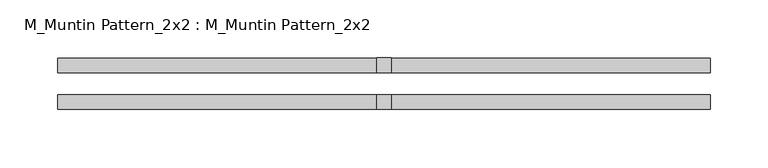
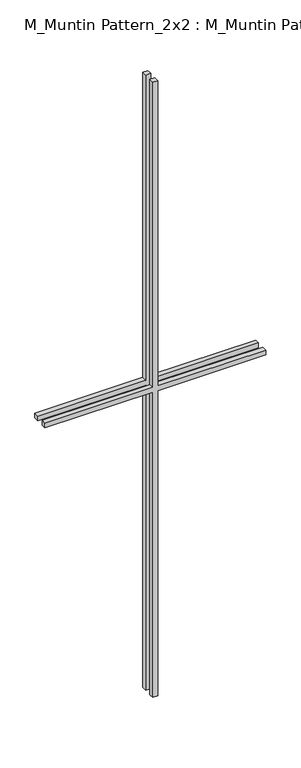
"""IFC4 building model written with IfcOpenShell, lengths in millimetres: proxy geometry, M_Muntin Pattern_2x2 : M_Muntin Pattern_2x2."""

import ifcopenshell
import ifcopenshell.guid

model = None  # the IFC model being written
_history = None  # IfcOwnerHistory: only IFC2X3 demands one
_inside = {}  # id of a spatial element -> (the spatial element, [elements in it])
_under = {}  # id of a project, library or spatial element -> (it, [spatial elements below it])
_declared = {}  # id of a project -> (the project, [libraries it declares])
_typed = {}  # id of a type object -> (the type object, [elements of that type])
_made_of = {}  # id of a material, layer set ... -> (it, [elements and type objects made of it])


def new_model(schema):
    """Start an empty IFC model of exactly this schema.

    Asked for "IFC4X3", IfcOpenShell would pick the latest addendum, in which some entities
    have other attributes; the version numbers below select the first issue.
    IFC2X3 requires an IfcOwnerHistory on every rooted entity: one is made here for all.
    """
    global model, _history
    if schema == "IFC4X3":
        model = ifcopenshell.file(schema_version=(4, 3, 0, 0))
    else:
        model = ifcopenshell.file(schema=schema)
    _inside.clear()
    _under.clear()
    _declared.clear()
    _typed.clear()
    _made_of.clear()
    _history = None
    if model.schema == "IFC2X3":
        org = make("IfcOrganization", Name="unknown")
        user = make(
            "IfcPersonAndOrganization",
            ThePerson=make("IfcPerson", FamilyName="unknown"),
            TheOrganization=org,
        )
        app = make(
            "IfcApplication",
            ApplicationDeveloper=org,
            Version="unknown",
            ApplicationFullName="unknown",
            ApplicationIdentifier="unknown",
        )
        _history = make(
            "IfcOwnerHistory",
            OwningUser=user,
            OwningApplication=app,
            ChangeAction="ADDED",
            CreationDate=0,
        )
    return model


def make(cls, **values):
    """One entity of the class cls with the attributes given. An attribute that is None is left unset."""
    return model.create_entity(
        cls, **{name: value for name, value in values.items() if value is not None}
    )


def rooted(cls, **values):
    """An entity with a GlobalId (a new one), such as an element, a storey or a relation."""
    return make(cls, GlobalId=ifcopenshell.guid.new(), OwnerHistory=_history, **values)


def si_unit(unit_type, name, prefix=None):
    """IfcSIUnit, for example si_unit("LENGTHUNIT", "METRE", prefix="MILLI")."""
    return make("IfcSIUnit", UnitType=unit_type, Prefix=prefix, Name=name)


def assignment(units):
    """IfcUnitAssignment: the units of a project."""
    return None if units is None else make("IfcUnitAssignment", Units=units)


def point(xyz):
    """IfcCartesianPoint."""
    return None if xyz is None else make("IfcCartesianPoint", Coordinates=xyz)


def direction(xyz):
    """IfcDirection."""
    return None if xyz is None else make("IfcDirection", DirectionRatios=xyz)


def frame(location, z_axis=None, x_axis=None):
    """IfcAxis2Placement3D, a coordinate frame: its origin and axes. An axis left out is left unset."""
    return make(
        "IfcAxis2Placement3D",
        Location=point(location),
        Axis=direction(z_axis),
        RefDirection=direction(x_axis),
    )


def origin():
    """The frame at (0, 0, 0) with its axes left unset."""
    return frame((0.0, 0.0, 0.0))


def place(relative_to, where):
    """IfcLocalPlacement: puts the frame where relative to a parent placement (None: the world)."""
    return make(
        "IfcLocalPlacement", PlacementRelTo=relative_to, RelativePlacement=where
    )


def context(
    kind, dimensions, precision=None, world=None, true_north=None, identifier=None
):
    """IfcGeometricRepresentationContext, for example the 3D "Model" context."""
    return make(
        "IfcGeometricRepresentationContext",
        ContextIdentifier=identifier,
        ContextType=kind,
        CoordinateSpaceDimension=dimensions,
        Precision=precision,
        WorldCoordinateSystem=world,
        TrueNorth=true_north,
    )


def project(units=None, contexts=None):
    """IfcProject with its units and contexts."""
    return rooted(
        "IfcProject",
        Name="project",
        RepresentationContexts=contexts,
        UnitsInContext=assignment(units),
    )


def spatial(cls, under=None, at=None, **own):
    """A site, building, storey or space (cls), placed at a placement, below another one or the project."""
    s = rooted(cls, ObjectPlacement=at, **own)
    if under is not None:
        _under.setdefault(under.id(), (under, []))[1].append(s)
    return s


def polyline(points):
    """IfcPolyline through the points."""
    return make("IfcPolyline", Points=[point(p) for p in points])


def outline(outer, holes=None, kind="AREA"):
    """IfcArbitraryClosedProfileDef: a profile drawn as a closed curve; with holes, ...WithVoids."""
    if holes is None:
        return make("IfcArbitraryClosedProfileDef", ProfileType=kind, OuterCurve=outer)
    return make(
        "IfcArbitraryProfileDefWithVoids",
        ProfileType=kind,
        OuterCurve=outer,
        InnerCurves=holes,
    )


def extrude(swept, where, along, depth):
    """IfcExtrudedAreaSolid: the profile swept, set in the frame where, extruded along a direction by depth."""
    return make(
        "IfcExtrudedAreaSolid",
        SweptArea=swept,
        Position=where,
        ExtrudedDirection=direction(along),
        Depth=depth,
    )


def shape(context_of_items, identifier, shape_type, items):
    """IfcShapeRepresentation: the items that make up one representation, for example the "Body"."""
    return make(
        "IfcShapeRepresentation",
        ContextOfItems=context_of_items,
        RepresentationIdentifier=identifier,
        RepresentationType=shape_type,
        Items=items,
    )


def source(mapping_origin, context_of_items, identifier, shape_type, items):
    """IfcRepresentationMap: a shape defined once, which mapped items show again and again."""
    return make(
        "IfcRepresentationMap",
        MappingOrigin=mapping_origin,
        MappedRepresentation=shape(context_of_items, identifier, shape_type, items),
    )


def transform(
    local_origin,
    x_axis=None,
    y_axis=None,
    z_axis=None,
    scale=None,
    scale2=None,
    scale3=None,
    uniform=True,
):
    """IfcCartesianTransformationOperator3D, or its non-uniform kind. x_axis, y_axis, z_axis: its Axis1, 2, 3."""
    if uniform:
        return make(
            "IfcCartesianTransformationOperator3D",
            Axis1=direction(x_axis),
            Axis2=direction(y_axis),
            LocalOrigin=point(local_origin),
            Scale=scale,
            Axis3=direction(z_axis),
        )
    return make(
        "IfcCartesianTransformationOperator3DnonUniform",
        Axis1=direction(x_axis),
        Axis2=direction(y_axis),
        LocalOrigin=point(local_origin),
        Scale=scale,
        Axis3=direction(z_axis),
        Scale2=scale2,
        Scale3=scale3,
    )


def mapped(mapping_source, mapping_target):
    """IfcMappedItem: shows the shape of a source again, moved by a transform."""
    return make(
        "IfcMappedItem", MappingSource=mapping_source, MappingTarget=mapping_target
    )


def made_of(thing, what):
    """Note that an element or type object is made of a material, layer set ...; save() writes the relation."""
    if what is not None:
        _made_of.setdefault(what.id(), (what, []))[1].append(thing)
    return thing


def element(
    cls,
    number,
    at=None,
    inside=None,
    cuts=None,
    type_object=None,
    material=None,
    context=None,
    identifier="Body",
    shape_type=None,
    held_by="IfcProductDefinitionShape",
    body=None,
    shapes=None,
    **own,
):
    """One element of the class cls, such as IfcWall. Its Tag is "e" and its number.

    at: its placement. inside: the storey or other place that contains it. cuts: it is an
    opening in that element (IfcRelVoidsElement). A single representation is given by context,
    identifier, shape_type and body (its items); several are given by shapes. held_by: the class
    of the entity that holds the representations. save() writes the other relations.
    """
    e = rooted(cls, Tag="e%d" % number, ObjectPlacement=at, **own)
    if body is not None:
        shapes = [shape(context, identifier, shape_type, body)]
    if shapes is not None:
        e.Representation = make(held_by, Representations=shapes)
    if inside is not None:
        _inside.setdefault(inside.id(), (inside, []))[1].append(e)
    if cuts is not None:
        rooted(
            "IfcRelVoidsElement", RelatingBuildingElement=cuts, RelatedOpeningElement=e
        )
    if type_object is not None:
        _typed.setdefault(type_object.id(), (type_object, []))[1].append(e)
    return made_of(e, material)


def aggregate(whole, parts):
    """IfcRelAggregates: a whole, such as a stair, and the parts it consists of."""
    return rooted("IfcRelAggregates", RelatingObject=whole, RelatedObjects=parts)


def save(model, path):
    """Write the relations noted so far, then the file.

    IfcRelAggregates (storeys below a building ...), IfcRelContainedInSpatialStructure (elements
    in a storey), IfcRelDefinesByType, IfcRelAssociatesMaterial and IfcRelDeclares: one each for
    every whole, place, type object, material and project.
    """
    for whole, parts in _under.values():
        aggregate(whole, parts)
    for where, things in _inside.values():
        rooted(
            "IfcRelContainedInSpatialStructure",
            RelatedElements=things,
            RelatingStructure=where,
        )
    for kind, things in _typed.values():
        rooted("IfcRelDefinesByType", RelatedObjects=things, RelatingType=kind)
    for what, things in _made_of.values():
        rooted("IfcRelAssociatesMaterial", RelatedObjects=things, RelatingMaterial=what)
    for by, libraries in _declared.values():
        rooted("IfcRelDeclares", RelatingContext=by, RelatedDefinitions=libraries)
    model.write(path)


def m_muntin_pattern_2x2_m_muntin_pattern_2x2_d2d4b859(model_context):
    return source(origin(), model_context, "Body", "SweptSolid", [
        extrude(outline(polyline([(836.5, -6.35), (836.5, -281.7375), (823.8, -281.7375), (823.8, -6.35), (0.0, -6.35), (0.0, 6.35), (823.8, 6.35), (823.8, 281.7375), (836.5, 281.7375), (836.5, 6.35), (1660.3, 6.35), (1660.3, -6.35), (836.5, -6.35)])), frame((0.0, 9.525, 0.0), z_axis=(0.0, 1.0, 0.0), x_axis=(0.0, 0.0, 1.0)), (0.0, 0.0, 1.0), 12.7),
        extrude(outline(polyline([(836.5, -6.35), (836.5, -281.7375), (823.8, -281.7375), (823.8, -6.35), (0.0, -6.35), (0.0, 6.35), (823.8, 6.35), (823.8, 281.7375), (836.5, 281.7375), (836.5, 6.35), (1660.3, 6.35), (1660.3, -6.35), (836.5, -6.35)])), frame((0.0, -22.225, 0.0), z_axis=(0.0, 1.0, 0.0), x_axis=(0.0, 0.0, 1.0)), (0.0, 0.0, 1.0), 12.7),
    ])


if __name__ == "__main__":
    model = new_model("IFC4")
    model_context = context("Model", 3, world=origin())
    ifc_project = project(units=[si_unit("LENGTHUNIT", "METRE", prefix="MILLI")], contexts=[model_context])
    site = spatial("IfcSite", under=ifc_project)
    building = spatial("IfcBuilding", under=site)
    placement = place(None, origin())
    m_muntin_pattern_2x2_m_muntin_pattern_2x2_shape = m_muntin_pattern_2x2_m_muntin_pattern_2x2_d2d4b859(model_context)
    element("IfcBuildingElementProxy", 1, Name="M_Muntin Pattern_2x2 : M_Muntin Pattern_2x2", ObjectType="M_Muntin Pattern_2x2 : M_Muntin Pattern_2x2", at=placement, inside=building, context=model_context, shape_type="MappedRepresentation", body=[
        mapped(m_muntin_pattern_2x2_m_muntin_pattern_2x2_shape, transform((0.0, 0.0, 0.0), x_axis=(1.0, 0.0, 0.0), y_axis=(0.0, 1.0, 0.0), z_axis=(0.0, 0.0, 1.0))),
    ])
    save(model, "model.ifc")
